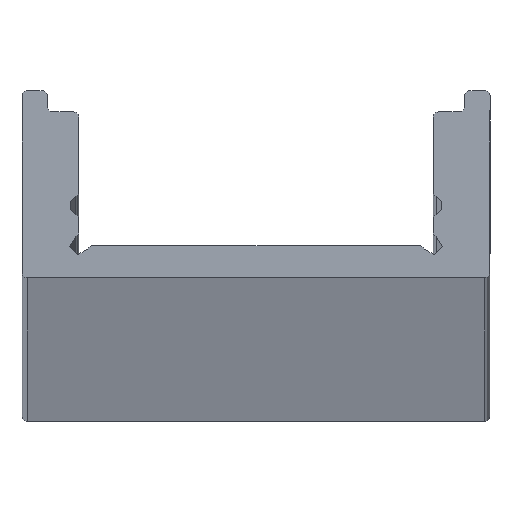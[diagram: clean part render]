
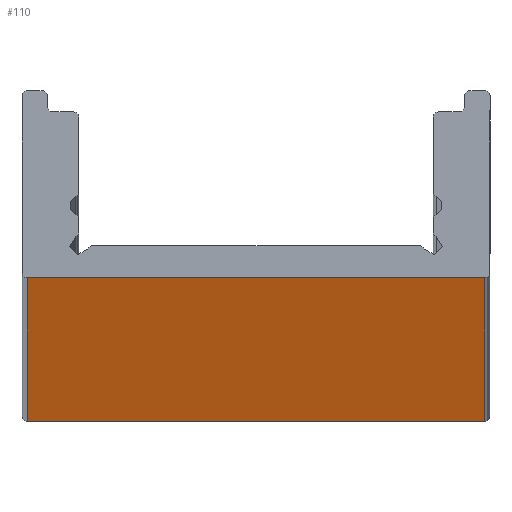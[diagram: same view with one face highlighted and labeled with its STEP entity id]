
A CAD part, top view. The second image highlights one B-rep face of the part: STEP entity #110.
In plain terms, the highlighted planar face has unit normal (0, -1, 0).
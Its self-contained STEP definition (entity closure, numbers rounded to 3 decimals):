
#110=ADVANCED_FACE('',(#164),#147,.F.);
#147=PLANE('',#767);
#164=FACE_OUTER_BOUND('',#202,.T.);
#202=EDGE_LOOP('',(#246,#247,#248,#249));
#246=ORIENTED_EDGE('',*,*,#533,.T.);
#247=ORIENTED_EDGE('',*,*,#534,.F.);
#248=ORIENTED_EDGE('',*,*,#535,.F.);
#249=ORIENTED_EDGE('',*,*,#531,.T.);
#458=VERTEX_POINT('',#1086);
#459=VERTEX_POINT('',#1088);
#460=VERTEX_POINT('',#1092);
#461=VERTEX_POINT('',#1094);
#531=EDGE_CURVE('',#459,#458,#638,.T.);
#533=EDGE_CURVE('',#458,#460,#639,.T.);
#534=EDGE_CURVE('',#461,#460,#640,.T.);
#535=EDGE_CURVE('',#459,#461,#641,.T.);
#638=LINE('',#1087,#702);
#639=LINE('',#1091,#703);
#640=LINE('',#1093,#704);
#641=LINE('',#1095,#705);
#702=VECTOR('',#855,1.);
#703=VECTOR('',#860,1.);
#704=VECTOR('',#861,1.);
#705=VECTOR('',#862,1.);
#767=AXIS2_PLACEMENT_3D('',#1096,#863,#864);
#855=DIRECTION('',(0.,0.,-1.));
#860=DIRECTION('',(1.,0.,0.));
#861=DIRECTION('',(0.,0.,-1.));
#862=DIRECTION('',(1.,0.,0.));
#863=DIRECTION('',(0.,1.,0.));
#864=DIRECTION('',(-1.,0.,0.));
#1086=CARTESIAN_POINT('',(-8.952,-3.969,0.));
#1087=CARTESIAN_POINT('',(-8.952,-3.969,4080.));
#1088=CARTESIAN_POINT('',(-8.952,-3.969,3080.));
#1091=CARTESIAN_POINT('',(-8.952,-3.969,0.));
#1092=CARTESIAN_POINT('',(8.148,-3.969,0.));
#1093=CARTESIAN_POINT('',(8.148,-3.969,4080.));
#1094=CARTESIAN_POINT('',(8.148,-3.969,3080.));
#1095=CARTESIAN_POINT('',(-8.952,-3.969,3080.));
#1096=CARTESIAN_POINT('',(-8.952,-3.969,4080.));
